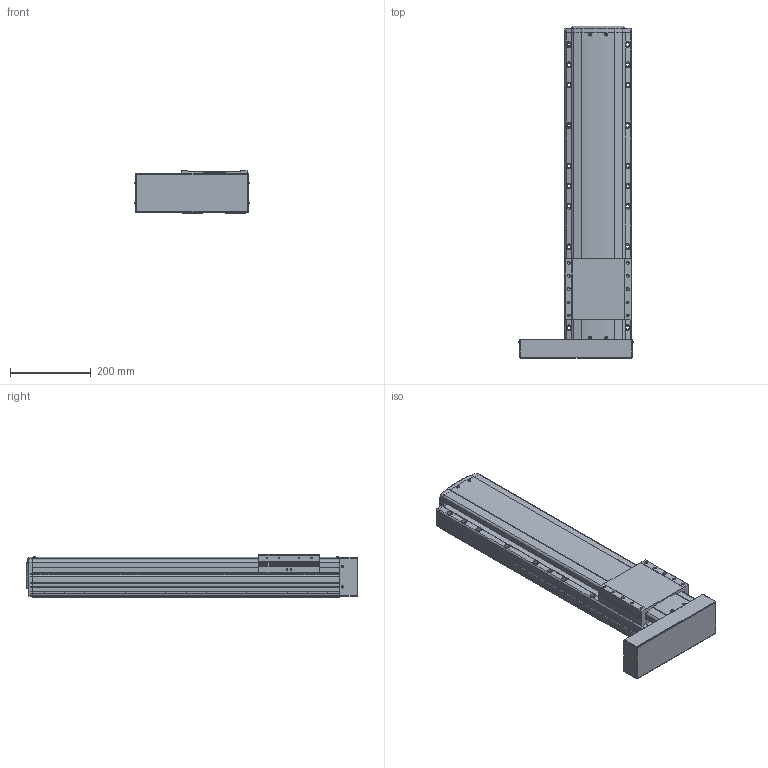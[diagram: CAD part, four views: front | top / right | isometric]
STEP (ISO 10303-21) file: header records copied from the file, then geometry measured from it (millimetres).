
FILE_DESCRIPTION(('STEP AP214'),'1');
FILE_NAME('Z:/Web/3D/PSA165/STP/PSA165-500 (3D)/PSA165ㅁㅁ-500PL.stp','2014-06-23T11:21:17',(' '),(' '),'Spatial InterOp 3D',' ',' ');
FILE_SCHEMA(('automotive_design'));
Length unit declared in the file: millimetre
Products named in the file (23): 스크루 : Round - M4.0 x 12.0; RRCV-PA160; BASE; 스크루 : Round - M4.0 x 10.0; RN15; Screw 20; SLIDE; FRCV; MTPL; 스크루 : Round - M3.0 x 6.0
Bounding box: 281.93 x 820.8 x 104 mm (x, y, z)
Volume: 11977812.9 mm3; surface area: 810245.1 mm2
Topology: 23 solids, 23 shells, 1995 faces, 5381 edges, 3429 vertices
Faces by surface type: plane 1084, cylinder 641, cone 185, sphere 44, bspline 25, torus 16
Entity records: 81447 total; most frequent: CARTESIAN_POINT 14698, DIRECTION 10607, ORIENTED_EDGE 10486, EDGE_CURVE 5243, AXIS2_PLACEMENT_3D 3552, LINE 3503, VECTOR 3503, VERTEX_POINT 3429
